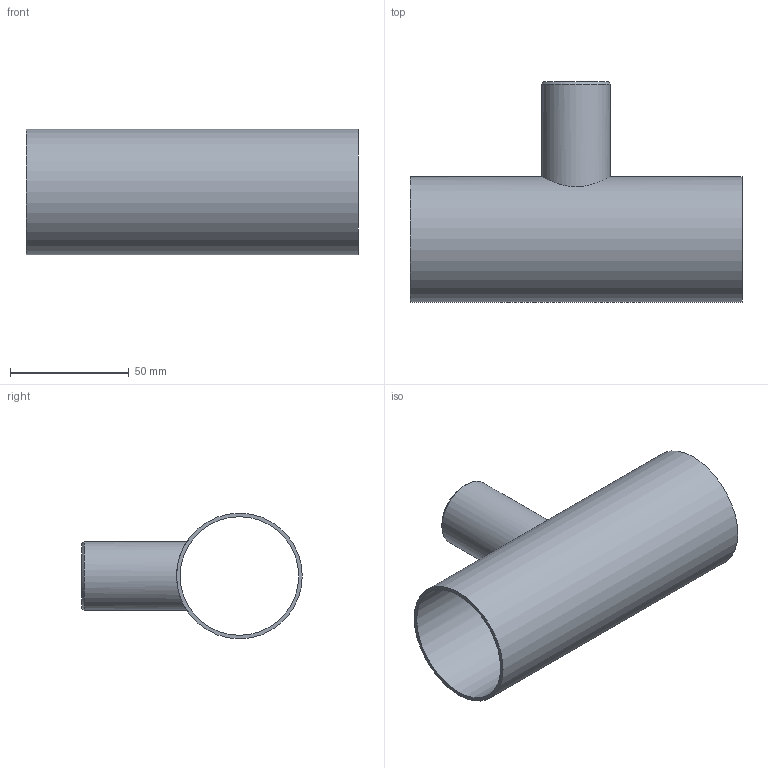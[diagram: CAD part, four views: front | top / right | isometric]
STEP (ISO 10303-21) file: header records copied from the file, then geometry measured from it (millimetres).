
FILE_DESCRIPTION( ( 'STEP AP203' ), '1' );
FILE_NAME( 'p:/temp/worker_78/temp/exporttempdir_3388_316_qBBEl/format_5/E43318.stp', '2021-03-08T10:04:38', ( 'License CC BY-ND 4.0' ), ( 'CADENAS' ), ' ', 'PARTsolutions', ' ' );
FILE_SCHEMA( ( 'CONFIG_CONTROL_DESIGN' ) );
Length unit declared in the file: millimetre
Products named in the file (1): _E43318
Bounding box: 140 x 93 x 53 mm (x, y, z)
Volume: 47094.4 mm3; surface area: 51658.1 mm2
Topology: 1 solids, 1 shells, 14 faces, 27 edges, 17 vertices
Faces by surface type: cylinder 5, cone 4, plane 4, torus 1
Full cylindrical faces by diameter (mm): 19 x1, 26 x1, 29 x1, 50 x1, 53 x1
Entity records: 536 total; most frequent: CARTESIAN_POINT 241, DIRECTION 56, EDGE_LOOP 30, ORIENTED_EDGE 30, AXIS2_PLACEMENT_3D 28, FACE_OUTER_BOUND 20, EDGE_CURVE 15, VERTEX_POINT 15
